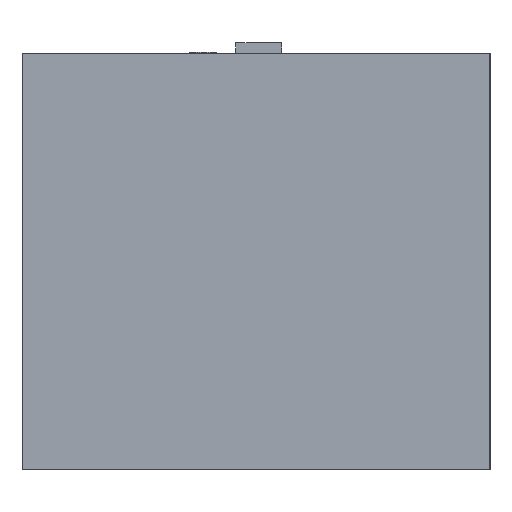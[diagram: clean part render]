
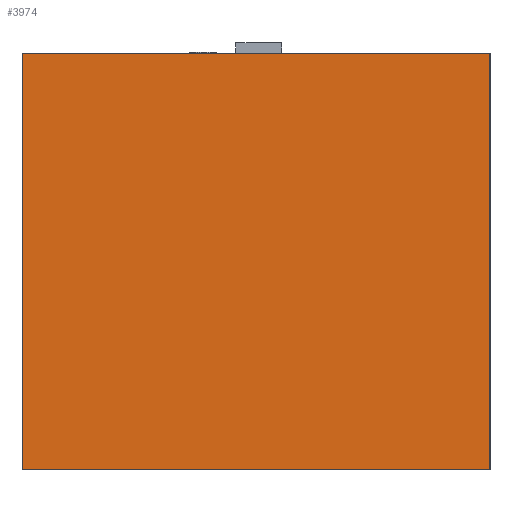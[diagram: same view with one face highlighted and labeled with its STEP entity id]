
A CAD part, left-side view. The second image highlights one B-rep face of the part: STEP entity #3974.
In plain terms, the highlighted planar face has unit normal (-1, 0, 0).
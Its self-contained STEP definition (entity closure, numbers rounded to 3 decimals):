
#389=FACE_OUTER_BOUND('',#637,.T.);
#637=EDGE_LOOP('',(#3138,#3139,#3140,#3141));
#963=LINE('',#6117,#1364);
#982=LINE('',#6178,#1383);
#988=LINE('',#6190,#1389);
#1011=LINE('',#6235,#1412);
#1364=VECTOR('',#4768,10.);
#1383=VECTOR('',#4827,10.);
#1389=VECTOR('',#4837,10.);
#1412=VECTOR('',#4886,10.);
#1723=VERTEX_POINT('',#6114);
#1724=VERTEX_POINT('',#6116);
#1746=VERTEX_POINT('',#6177);
#1750=VERTEX_POINT('',#6189);
#2193=EDGE_CURVE('',#1723,#1724,#963,.T.);
#2220=EDGE_CURVE('',#1746,#1724,#982,.T.);
#2226=EDGE_CURVE('',#1750,#1746,#988,.T.);
#2249=EDGE_CURVE('',#1750,#1723,#1011,.T.);
#3138=ORIENTED_EDGE('',*,*,#2226,.T.);
#3139=ORIENTED_EDGE('',*,*,#2220,.T.);
#3140=ORIENTED_EDGE('',*,*,#2193,.F.);
#3141=ORIENTED_EDGE('',*,*,#2249,.F.);
#3739=PLANE('',#4212);
#3974=ADVANCED_FACE('',(#389),#3739,.T.);
#4212=AXIS2_PLACEMENT_3D('',#6236,#4887,#4888);
#4768=DIRECTION('',(0.,-1.,0.));
#4827=DIRECTION('',(0.,0.,1.));
#4837=DIRECTION('',(0.,-1.,0.));
#4886=DIRECTION('',(0.,0.,1.));
#4887=DIRECTION('center_axis',(-1.,0.,0.));
#4888=DIRECTION('ref_axis',(0.,-1.,0.));
#6114=CARTESIAN_POINT('',(0.,45.,40.));
#6116=CARTESIAN_POINT('',(0.,0.,40.));
#6117=CARTESIAN_POINT('',(0.,45.,40.));
#6177=CARTESIAN_POINT('',(0.,0.,0.));
#6178=CARTESIAN_POINT('',(0.,0.,0.));
#6189=CARTESIAN_POINT('',(0.,45.,0.));
#6190=CARTESIAN_POINT('',(0.,45.,0.));
#6235=CARTESIAN_POINT('',(0.,45.,0.));
#6236=CARTESIAN_POINT('Origin',(0.,45.,0.));
